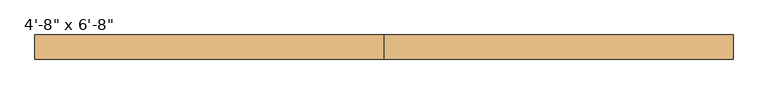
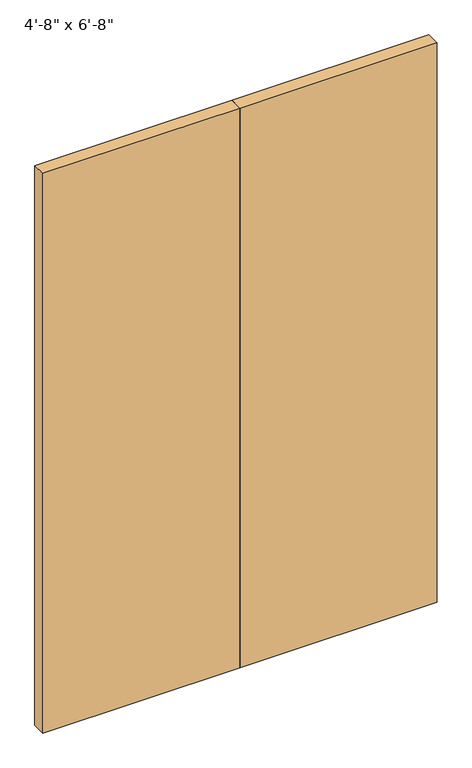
"""IFC4 building model written with IfcOpenShell, lengths in millimetres: door geometry."""

import ifcopenshell
import ifcopenshell.guid

model = None  # the IFC model being written
_history = None  # IfcOwnerHistory: only IFC2X3 demands one
_inside = {}  # id of a spatial element -> (the spatial element, [elements in it])
_under = {}  # id of a project, library or spatial element -> (it, [spatial elements below it])
_declared = {}  # id of a project -> (the project, [libraries it declares])
_typed = {}  # id of a type object -> (the type object, [elements of that type])
_made_of = {}  # id of a material, layer set ... -> (it, [elements and type objects made of it])


def new_model(schema):
    """Start an empty IFC model of exactly this schema.

    Asked for "IFC4X3", IfcOpenShell would pick the latest addendum, in which some entities
    have other attributes; the version numbers below select the first issue.
    IFC2X3 requires an IfcOwnerHistory on every rooted entity: one is made here for all.
    """
    global model, _history
    if schema == "IFC4X3":
        model = ifcopenshell.file(schema_version=(4, 3, 0, 0))
    else:
        model = ifcopenshell.file(schema=schema)
    _inside.clear()
    _under.clear()
    _declared.clear()
    _typed.clear()
    _made_of.clear()
    _history = None
    if model.schema == "IFC2X3":
        org = make("IfcOrganization", Name="unknown")
        user = make(
            "IfcPersonAndOrganization",
            ThePerson=make("IfcPerson", FamilyName="unknown"),
            TheOrganization=org,
        )
        app = make(
            "IfcApplication",
            ApplicationDeveloper=org,
            Version="unknown",
            ApplicationFullName="unknown",
            ApplicationIdentifier="unknown",
        )
        _history = make(
            "IfcOwnerHistory",
            OwningUser=user,
            OwningApplication=app,
            ChangeAction="ADDED",
            CreationDate=0,
        )
    return model


def make(cls, **values):
    """One entity of the class cls with the attributes given. An attribute that is None is left unset."""
    return model.create_entity(
        cls, **{name: value for name, value in values.items() if value is not None}
    )


def rooted(cls, **values):
    """An entity with a GlobalId (a new one), such as an element, a storey or a relation."""
    return make(cls, GlobalId=ifcopenshell.guid.new(), OwnerHistory=_history, **values)


def si_unit(unit_type, name, prefix=None):
    """IfcSIUnit, for example si_unit("LENGTHUNIT", "METRE", prefix="MILLI")."""
    return make("IfcSIUnit", UnitType=unit_type, Prefix=prefix, Name=name)


def assignment(units):
    """IfcUnitAssignment: the units of a project."""
    return None if units is None else make("IfcUnitAssignment", Units=units)


def point(xyz):
    """IfcCartesianPoint."""
    return None if xyz is None else make("IfcCartesianPoint", Coordinates=xyz)


def direction(xyz):
    """IfcDirection."""
    return None if xyz is None else make("IfcDirection", DirectionRatios=xyz)


def frame(location, z_axis=None, x_axis=None):
    """IfcAxis2Placement3D, a coordinate frame: its origin and axes. An axis left out is left unset."""
    return make(
        "IfcAxis2Placement3D",
        Location=point(location),
        Axis=direction(z_axis),
        RefDirection=direction(x_axis),
    )


def origin():
    """The frame at (0, 0, 0) with its axes left unset."""
    return frame((0.0, 0.0, 0.0))


def origin_with_axes():
    """The frame at (0, 0, 0) with the z axis (0, 0, 1) and the x axis (1, 0, 0) written out."""
    return frame((0.0, 0.0, 0.0), z_axis=(0.0, 0.0, 1.0), x_axis=(1.0, 0.0, 0.0))


def place(relative_to, where):
    """IfcLocalPlacement: puts the frame where relative to a parent placement (None: the world)."""
    return make(
        "IfcLocalPlacement", PlacementRelTo=relative_to, RelativePlacement=where
    )


def context(
    kind, dimensions, precision=None, world=None, true_north=None, identifier=None
):
    """IfcGeometricRepresentationContext, for example the 3D "Model" context."""
    return make(
        "IfcGeometricRepresentationContext",
        ContextIdentifier=identifier,
        ContextType=kind,
        CoordinateSpaceDimension=dimensions,
        Precision=precision,
        WorldCoordinateSystem=world,
        TrueNorth=true_north,
    )


def project(units=None, contexts=None):
    """IfcProject with its units and contexts."""
    return rooted(
        "IfcProject",
        Name="project",
        RepresentationContexts=contexts,
        UnitsInContext=assignment(units),
    )


def spatial(cls, under=None, at=None, **own):
    """A site, building, storey or space (cls), placed at a placement, below another one or the project."""
    s = rooted(cls, ObjectPlacement=at, **own)
    if under is not None:
        _under.setdefault(under.id(), (under, []))[1].append(s)
    return s


def polyline(points):
    """IfcPolyline through the points."""
    return make("IfcPolyline", Points=[point(p) for p in points])


def outline(outer, holes=None, kind="AREA"):
    """IfcArbitraryClosedProfileDef: a profile drawn as a closed curve; with holes, ...WithVoids."""
    if holes is None:
        return make("IfcArbitraryClosedProfileDef", ProfileType=kind, OuterCurve=outer)
    return make(
        "IfcArbitraryProfileDefWithVoids",
        ProfileType=kind,
        OuterCurve=outer,
        InnerCurves=holes,
    )


def extrude(swept, where, along, depth):
    """IfcExtrudedAreaSolid: the profile swept, set in the frame where, extruded along a direction by depth."""
    return make(
        "IfcExtrudedAreaSolid",
        SweptArea=swept,
        Position=where,
        ExtrudedDirection=direction(along),
        Depth=depth,
    )


def shape(context_of_items, identifier, shape_type, items):
    """IfcShapeRepresentation: the items that make up one representation, for example the "Body"."""
    return make(
        "IfcShapeRepresentation",
        ContextOfItems=context_of_items,
        RepresentationIdentifier=identifier,
        RepresentationType=shape_type,
        Items=items,
    )


def source(mapping_origin, context_of_items, identifier, shape_type, items):
    """IfcRepresentationMap: a shape defined once, which mapped items show again and again."""
    return make(
        "IfcRepresentationMap",
        MappingOrigin=mapping_origin,
        MappedRepresentation=shape(context_of_items, identifier, shape_type, items),
    )


def transform(
    local_origin,
    x_axis=None,
    y_axis=None,
    z_axis=None,
    scale=None,
    scale2=None,
    scale3=None,
    uniform=True,
):
    """IfcCartesianTransformationOperator3D, or its non-uniform kind. x_axis, y_axis, z_axis: its Axis1, 2, 3."""
    if uniform:
        return make(
            "IfcCartesianTransformationOperator3D",
            Axis1=direction(x_axis),
            Axis2=direction(y_axis),
            LocalOrigin=point(local_origin),
            Scale=scale,
            Axis3=direction(z_axis),
        )
    return make(
        "IfcCartesianTransformationOperator3DnonUniform",
        Axis1=direction(x_axis),
        Axis2=direction(y_axis),
        LocalOrigin=point(local_origin),
        Scale=scale,
        Axis3=direction(z_axis),
        Scale2=scale2,
        Scale3=scale3,
    )


def mapped(mapping_source, mapping_target):
    """IfcMappedItem: shows the shape of a source again, moved by a transform."""
    return make(
        "IfcMappedItem", MappingSource=mapping_source, MappingTarget=mapping_target
    )


def made_of(thing, what):
    """Note that an element or type object is made of a material, layer set ...; save() writes the relation."""
    if what is not None:
        _made_of.setdefault(what.id(), (what, []))[1].append(thing)
    return thing


def element(
    cls,
    number,
    at=None,
    inside=None,
    cuts=None,
    type_object=None,
    material=None,
    context=None,
    identifier="Body",
    shape_type=None,
    held_by="IfcProductDefinitionShape",
    body=None,
    shapes=None,
    **own,
):
    """One element of the class cls, such as IfcWall. Its Tag is "e" and its number.

    at: its placement. inside: the storey or other place that contains it. cuts: it is an
    opening in that element (IfcRelVoidsElement). A single representation is given by context,
    identifier, shape_type and body (its items); several are given by shapes. held_by: the class
    of the entity that holds the representations. save() writes the other relations.
    """
    e = rooted(cls, Tag="e%d" % number, ObjectPlacement=at, **own)
    if body is not None:
        shapes = [shape(context, identifier, shape_type, body)]
    if shapes is not None:
        e.Representation = make(held_by, Representations=shapes)
    if inside is not None:
        _inside.setdefault(inside.id(), (inside, []))[1].append(e)
    if cuts is not None:
        rooted(
            "IfcRelVoidsElement", RelatingBuildingElement=cuts, RelatedOpeningElement=e
        )
    if type_object is not None:
        _typed.setdefault(type_object.id(), (type_object, []))[1].append(e)
    return made_of(e, material)


def aggregate(whole, parts):
    """IfcRelAggregates: a whole, such as a stair, and the parts it consists of."""
    return rooted("IfcRelAggregates", RelatingObject=whole, RelatedObjects=parts)


def save(model, path):
    """Write the relations noted so far, then the file.

    IfcRelAggregates (storeys below a building ...), IfcRelContainedInSpatialStructure (elements
    in a storey), IfcRelDefinesByType, IfcRelAssociatesMaterial and IfcRelDeclares: one each for
    every whole, place, type object, material and project.
    """
    for whole, parts in _under.values():
        aggregate(whole, parts)
    for where, things in _inside.values():
        rooted(
            "IfcRelContainedInSpatialStructure",
            RelatedElements=things,
            RelatingStructure=where,
        )
    for kind, things in _typed.values():
        rooted("IfcRelDefinesByType", RelatedObjects=things, RelatingType=kind)
    for what, things in _made_of.values():
        rooted("IfcRelAssociatesMaterial", RelatedObjects=things, RelatingMaterial=what)
    for by, libraries in _declared.values():
        rooted("IfcRelDeclares", RelatingContext=by, RelatedDefinitions=libraries)
    model.write(path)


def door_3fdbb91f(model_context):
    return source(origin(), model_context, "Body", "SweptSolid", [
        extrude(outline(polyline([(0.0, 152.4), (711.2, 152.4), (711.2, 102.4), (0.0, 102.4), (0.0, 152.4)])), origin_with_axes(), (0.0, 0.0, 1.0), 2133.6),
        extrude(outline(polyline([(-711.2, 152.4), (0.0, 152.4), (0.0, 102.4), (-711.2, 102.4), (-711.2, 152.4)])), origin_with_axes(), (0.0, 0.0, 1.0), 2133.6),
    ])


if __name__ == "__main__":
    model = new_model("IFC4")
    model_context = context("Model", 3, world=origin())
    ifc_project = project(units=[si_unit("LENGTHUNIT", "METRE", prefix="MILLI")], contexts=[model_context])
    site = spatial("IfcSite", under=ifc_project)
    building = spatial("IfcBuilding", under=site)
    placement = place(None, origin())
    door_shape = door_3fdbb91f(model_context)
    element("IfcDoor", 1, ObjectType="Planitar - Double Door_Flush Panel : 4'-8\" x 6'-8\"", at=placement, inside=building, context=model_context, shape_type="MappedRepresentation", body=[
        mapped(door_shape, transform((0.0, 0.0, 0.0), x_axis=(1.0, 0.0, 0.0), y_axis=(0.0, 1.0, 0.0), z_axis=(0.0, 0.0, 1.0))),
    ])
    save(model, "model.ifc")
